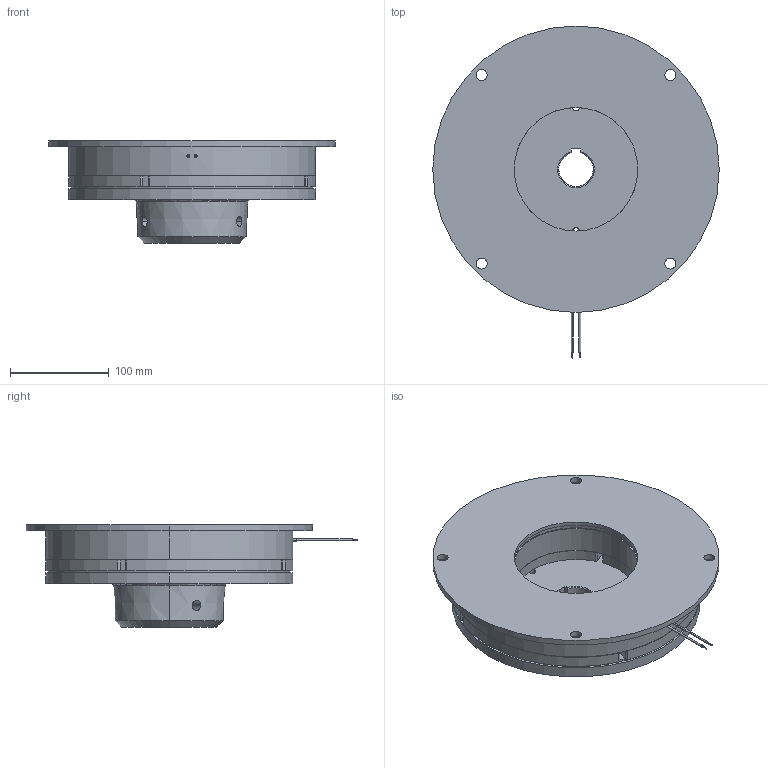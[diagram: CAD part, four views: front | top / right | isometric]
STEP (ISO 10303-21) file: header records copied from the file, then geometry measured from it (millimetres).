
FILE_DESCRIPTION (( 'STEP AP214' ), '1' );
FILE_NAME ('dr_bk_1202-130_mu.STEP', '2021-11-10T10:46:16', ( '' ), ( '' ), 'SwSTEP 2.0', 'SolidWorks 2019', '' );
FILE_SCHEMA (( 'AUTOMOTIVE_DESIGN' ));
Length unit declared in the file: millimetre
Products named in the file (10): 10068904_000_M 12 x 20; dr_bk_1202-130_mu; 10068893_000; 10068899_000; 10068706_000; 10068895_000; 10068905_000; 10068894_000; 10068900_000_Klemml„nge 9,5mm; 10068906_000
Assembly tree (24 placements, depth 4):
  dr_bk_1202-130_mu
    10068706_000
    10068905_000
      10068906_000
      10068899_000
        10068893_000
        10068894_000
        10068900_000_Klemml„nge 9,5mm  x4
        10068895_000  x4
      10068900_000_Klemml„nge 9,5mm  x4
      10068895_000  x4
      10068904_000_M 12 x 20  x2
Bounding box: 290 x 336 x 103.4 mm (x, y, z)
Volume: 2671767 mm3; surface area: 432084.6 mm2
Topology: 24 solids, 24 shells, 473 faces, 1088 edges, 650 vertices
Faces by surface type: cylinder 231, cone 106, plane 92, torus 44
Entity records: 10253 total; most frequent: CARTESIAN_POINT 1922, DIRECTION 1652, ORIENTED_EDGE 1364, AXIS2_PLACEMENT_3D 685, EDGE_CURVE 682, VERTEX_POINT 433, CIRCLE 378, EDGE_LOOP 363
